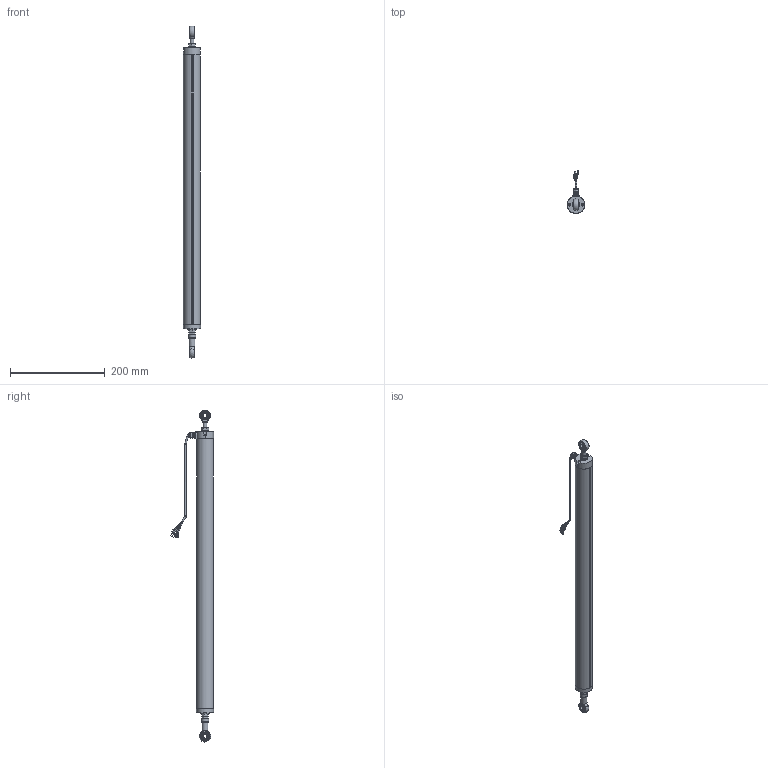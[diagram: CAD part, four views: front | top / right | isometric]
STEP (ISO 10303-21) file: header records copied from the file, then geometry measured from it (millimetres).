
FILE_DESCRIPTION(/* description */ (''),/* implementation_level */ '2;1');
FILE_NAME(/* name */ 'C:\Users\Justin\Documents\CAD\The Sensor Connection\LPPS\LPPS-36B Series\3D\LPPS 36B-500\LPPS 36B-500 Assembly.stp',/* time_stamp */ '2020-09-18T14:31:55-04:00',/* author */ ('Justin'),/* organization */ (''),/* preprocessor_version */ 'ST-DEVELOPER v18.1',/* originating_system */ 'Autodesk Inventor 2021',/* authorisation */ '');
FILE_SCHEMA (('AUTOMOTIVE_DESIGN { 1 0 10303 214 3 1 1 }'));
Length unit declared in the file: inch
Products named in the file (3): LPPS 36B-500 Assembly; LPPS 36B-500_Shaft_Shrinkwrap; LPPS 36B-500_Shrinkwrap
Assembly tree (2 placements, depth 2):
  LPPS 36B-500 Assembly
    LPPS 36B-500_Shaft_Shrinkwrap
    LPPS 36B-500_Shrinkwrap
Bounding box: 36.05 x 90.87 x 699.86 mm (x, y, z)
Volume: 208739.1 mm3; surface area: 174831.2 mm2
Topology: 26 solids, 26 shells, 1054 faces, 2595 edges, 1667 vertices
Faces by surface type: plane 466, cylinder 255, bspline 195, torus 73, cone 60, sphere 5
Full cylindrical faces by diameter (mm): 1.236 x3, 2.5 x2, 3 x6, 3.175 x3, 3.5 x5, 3.708 x1, 5 x2, 5.5 x1, 6 x2, 6.647 x1, 7 x2, 8 x11, 8.1 x1, 8.4 x1, 9 x1, 10 x1, 11 x1, 12.5 x1, 15 x4, 15.8 x1, 16 x1, 18.5 x3, 36 x1
Entity records: 37473 total; most frequent: CARTESIAN_POINT 12064, ORIENTED_EDGE 5190, DIRECTION 4697, EDGE_CURVE 2595, AXIS2_PLACEMENT_3D 1774, VERTEX_POINT 1667, EDGE_LOOP 1169, LINE 1149
